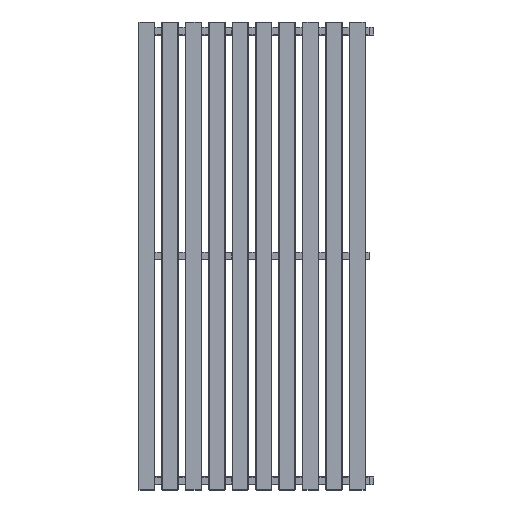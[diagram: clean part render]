
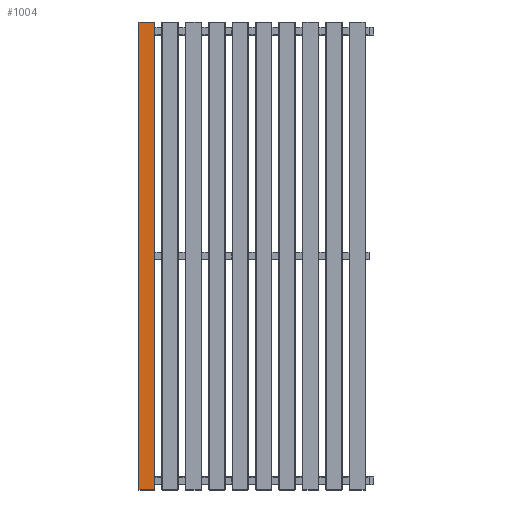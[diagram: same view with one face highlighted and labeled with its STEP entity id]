
A CAD part, top view. The second image highlights one B-rep face of the part: STEP entity #1004.
In plain terms, the highlighted planar face has unit normal (0, 0, 1) as drawn and (1, 0, 0) by its records, which use the part's own axes.
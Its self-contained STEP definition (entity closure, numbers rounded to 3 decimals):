
#7 = VERTEX_POINT ( 'NONE', #296 ) ;
#280 = ORIENTED_EDGE ( 'NONE', *, *, #2882, .T. ) ;
#296 = CARTESIAN_POINT ( 'NONE',  ( 10., 19.6, 599.5 ) ) ;
#324 = EDGE_CURVE ( 'NONE', #4537, #7, #5672, .T. ) ;
#377 = EDGE_CURVE ( 'NONE', #3059, #7, #3750, .T. ) ;
#951 = CARTESIAN_POINT ( 'NONE',  ( 10., -19.6, 599.5 ) ) ;
#997 = CARTESIAN_POINT ( 'NONE',  ( 10., -21., -599.5 ) ) ;
#1004 = ADVANCED_FACE ( 'NONE', ( #4032 ), #5419, .F. ) ;
#1088 = VECTOR ( 'NONE', #2397, 1000. ) ;
#1285 = EDGE_LOOP ( 'NONE', ( #1898, #280, #5823, #5101 ) ) ;
#1898 = ORIENTED_EDGE ( 'NONE', *, *, #324, .F. ) ;
#2317 = DIRECTION ( 'NONE',  ( 0., 0., 1. ) ) ;
#2397 = DIRECTION ( 'NONE',  ( 0., 0., -1. ) ) ;
#2487 = EDGE_CURVE ( 'NONE', #3367, #3059, #3636, .T. ) ;
#2703 = DIRECTION ( 'NONE',  ( 0., 0., 1. ) ) ;
#2828 = LINE ( 'NONE', #951, #1088 ) ;
#2842 = DIRECTION ( 'NONE',  ( 0., 1., 0. ) ) ;
#2862 = DIRECTION ( 'NONE',  ( 0., 1., 0. ) ) ;
#2882 = EDGE_CURVE ( 'NONE', #4537, #3367, #2828, .T. ) ;
#2893 = VECTOR ( 'NONE', #2862, 1000. ) ;
#2980 = VECTOR ( 'NONE', #2317, 1000. ) ;
#3059 = VERTEX_POINT ( 'NONE', #4790 ) ;
#3318 = CARTESIAN_POINT ( 'NONE',  ( 10., 19.6, 599.5 ) ) ;
#3367 = VERTEX_POINT ( 'NONE', #4628 ) ;
#3506 = VECTOR ( 'NONE', #2842, 1000. ) ;
#3636 = LINE ( 'NONE', #997, #3506 ) ;
#3750 = LINE ( 'NONE', #3318, #2980 ) ;
#3778 = CARTESIAN_POINT ( 'NONE',  ( 10., -21., 599.5 ) ) ;
#4032 = FACE_OUTER_BOUND ( 'NONE', #1285, .T. ) ;
#4334 = CARTESIAN_POINT ( 'NONE',  ( 10., -19.6, 599.5 ) ) ;
#4519 = DIRECTION ( 'NONE',  ( -1., 0., 0. ) ) ;
#4537 = VERTEX_POINT ( 'NONE', #4334 ) ;
#4628 = CARTESIAN_POINT ( 'NONE',  ( 10., -19.6, -599.5 ) ) ;
#4636 = AXIS2_PLACEMENT_3D ( 'NONE', #5020, #4519, #2703 ) ;
#4790 = CARTESIAN_POINT ( 'NONE',  ( 10., 19.6, -599.5 ) ) ;
#5020 = CARTESIAN_POINT ( 'NONE',  ( 10., -21., 599.5 ) ) ;
#5101 = ORIENTED_EDGE ( 'NONE', *, *, #377, .T. ) ;
#5419 = PLANE ( 'NONE',  #4636 ) ;
#5672 = LINE ( 'NONE', #3778, #2893 ) ;
#5823 = ORIENTED_EDGE ( 'NONE', *, *, #2487, .T. ) ;
